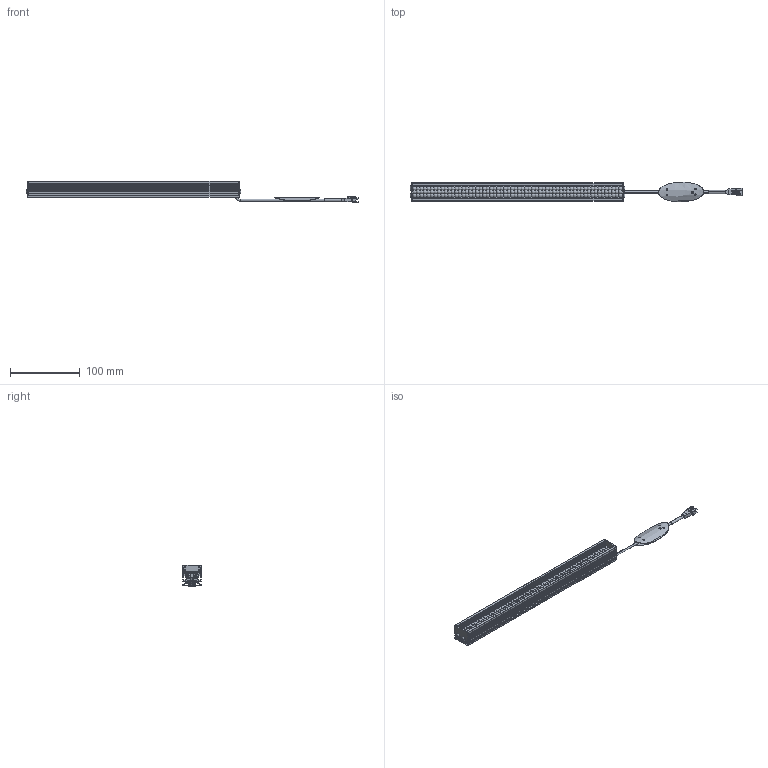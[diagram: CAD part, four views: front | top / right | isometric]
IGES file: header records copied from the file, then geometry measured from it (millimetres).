
Start section: 3D InterOp IGES (v. 2019 1.0.2), Spatial Corp. Copyright (c) 1999-2017.
Global section: file name: VBA-30015_DRAWING_3D.iges; native system: Spatial Corp.; preprocessor: 3D InterOp ACIS/IGES; author: Noname; organization: Noname; date: 20230914.100039; units: millimetre
Bounding box: 476 x 28 x 30.5 mm (x, y, z)
Surface area: 96405.6 mm2 (no closed solid volume)
Topology: 0 solids, 0 shells, 1361 faces, 7864 edges, 7864 vertices
Faces by surface type: extrusion 709, revolution 646, bspline 6
